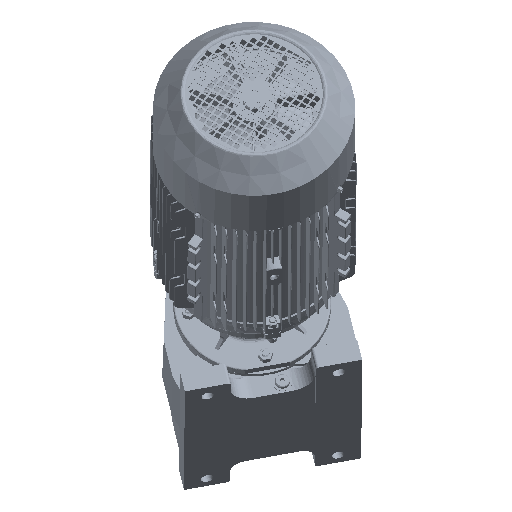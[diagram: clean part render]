
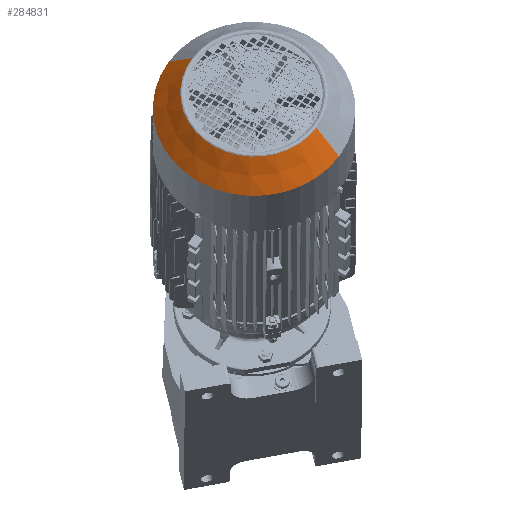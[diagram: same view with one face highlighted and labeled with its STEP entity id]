
A CAD part, top view. The second image highlights one B-rep face of the part: STEP entity #284831.
In plain terms, the highlighted conical face has half-angle 41.071 degrees and reference radius 128.55 mm.
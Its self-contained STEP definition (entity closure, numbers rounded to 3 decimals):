
#1559 = CIRCLE ( 'NONE', #47492, 128.55 ) ;
#39594 = VERTEX_POINT ( 'NONE', #186203 ) ;
#39596 = VERTEX_POINT ( 'NONE', #186208 ) ;
#39674 = VERTEX_POINT ( 'NONE', #186315 ) ;
#39699 = VERTEX_POINT ( 'NONE', #186350 ) ;
#47492 = AXIS2_PLACEMENT_3D ( 'NONE', #337891, #337977, #337949 ) ;
#104025 = AXIS2_PLACEMENT_3D ( 'NONE', #109716, #109605, #109609 ) ;
#109605 = DIRECTION ( 'NONE',  ( -1., 0., 0. ) ) ;
#109609 = DIRECTION ( 'NONE',  ( 0., 0., 1. ) ) ;
#109716 = CARTESIAN_POINT ( 'NONE',  ( 87., 0., 0. ) ) ;
#113563 = FACE_OUTER_BOUND ( 'NONE', #163402, .T. ) ;
#113571 = CONICAL_SURFACE ( 'NONE', #104025, 128.55, 0.717 ) ;
#139357 = EDGE_CURVE ( 'NONE', #39699, #39596, #258478, .T. ) ;
#139446 = EDGE_CURVE ( 'NONE', #39674, #39594, #258767, .T. ) ;
#139535 = EDGE_CURVE ( 'NONE', #39674, #39699, #255942, .T. ) ;
#163402 = EDGE_LOOP ( 'NONE', ( #166165, #166142, #166239, #166156 ) ) ;
#166142 = ORIENTED_EDGE ( 'NONE', *, *, #139535, .T. ) ;
#166156 = ORIENTED_EDGE ( 'NONE', *, *, #206702, .F. ) ;
#166165 = ORIENTED_EDGE ( 'NONE', *, *, #139446, .F. ) ;
#166239 = ORIENTED_EDGE ( 'NONE', *, *, #139357, .T. ) ;
#186203 = CARTESIAN_POINT ( 'NONE',  ( 87., 0., -128.55 ) ) ;
#186208 = CARTESIAN_POINT ( 'NONE',  ( 87., 0., 128.55 ) ) ;
#186315 = CARTESIAN_POINT ( 'NONE',  ( 126.628, 0., -94.016 ) ) ;
#186350 = CARTESIAN_POINT ( 'NONE',  ( 126.628, 0., 94.016 ) ) ;
#206702 = EDGE_CURVE ( 'NONE', #39594, #39596, #1559, .T. ) ;
#228043 = CARTESIAN_POINT ( 'NONE',  ( 87., 0., -128.55 ) ) ;
#228129 = DIRECTION ( 'NONE',  ( -0.754, 0., -0.657 ) ) ;
#228684 = CARTESIAN_POINT ( 'NONE',  ( 126.628, 0., 0. ) ) ;
#228793 = DIRECTION ( 'NONE',  ( -1., 0., 0. ) ) ;
#228799 = DIRECTION ( 'NONE',  ( 0., 0., 1. ) ) ;
#231479 = CARTESIAN_POINT ( 'NONE',  ( 87., 0., 128.55 ) ) ;
#231547 = DIRECTION ( 'NONE',  ( -0.754, 0., 0.657 ) ) ;
#255942 = CIRCLE ( 'NONE', #328181, 94.016 ) ;
#258478 = LINE ( 'NONE', #231479, #258485 ) ;
#258485 = VECTOR ( 'NONE', #231547, 1000. ) ;
#258767 = LINE ( 'NONE', #228043, #258770 ) ;
#258770 = VECTOR ( 'NONE', #228129, 1000. ) ;
#284831 = ADVANCED_FACE ( 'NONE', ( #113563 ), #113571, .T. ) ;
#328181 = AXIS2_PLACEMENT_3D ( 'NONE', #228684, #228793, #228799 ) ;
#337891 = CARTESIAN_POINT ( 'NONE',  ( 87., 0., 0. ) ) ;
#337949 = DIRECTION ( 'NONE',  ( 0., 0., 1. ) ) ;
#337977 = DIRECTION ( 'NONE',  ( -1., 0., 0. ) ) ;
